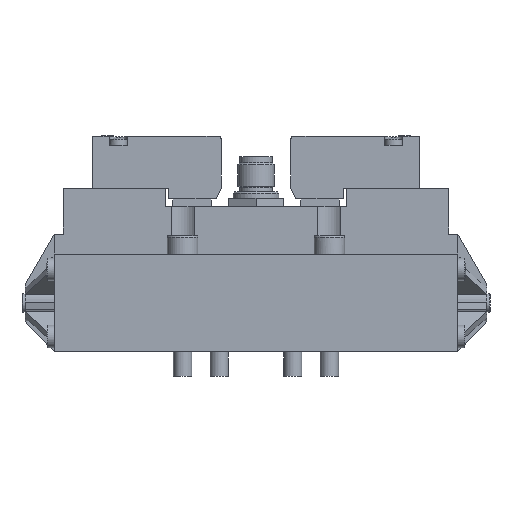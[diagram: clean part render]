
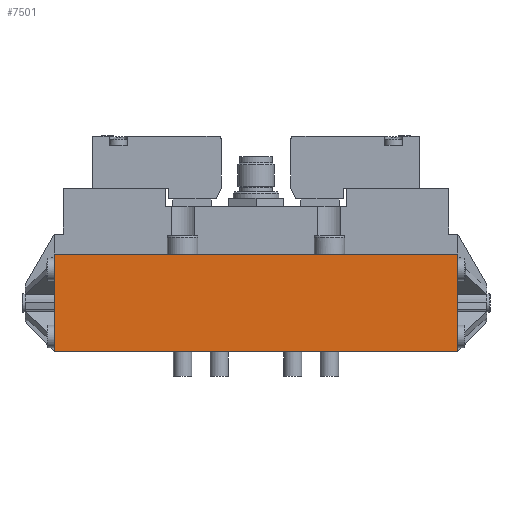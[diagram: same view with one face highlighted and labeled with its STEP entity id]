
A CAD part, front view. The second image highlights one B-rep face of the part: STEP entity #7501.
In plain terms, the highlighted planar face has unit normal (0, -1, 0).
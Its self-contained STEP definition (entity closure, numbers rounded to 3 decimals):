
#3319=CARTESIAN_POINT('',(66.,-26.,-16.0));
#3320=VERTEX_POINT('',#3319);
#3327=CARTESIAN_POINT('',(-66.0,-26.0,-16.0));
#3328=VERTEX_POINT('',#3327);
#3329=CARTESIAN_POINT('',(-66.,-26.0,-16.0));
#3330=DIRECTION('',(1.0,0.0,0.0));
#3331=VECTOR('',#3330,132.0);
#3332=LINE('',#3329,#3331);
#3333=EDGE_CURVE('',#3328,#3320,#3332,.T.);
#3416=CARTESIAN_POINT('',(-66.0,-26.0,16.0));
#3417=VERTEX_POINT('',#3416);
#3424=CARTESIAN_POINT('',(66.,-26.,16.0));
#3425=VERTEX_POINT('',#3424);
#3426=CARTESIAN_POINT('',(66.,-26.,16.0));
#3427=DIRECTION('',(-1.0,0.0,0.0));
#3428=VECTOR('',#3427,132.0);
#3429=LINE('',#3426,#3428);
#3430=EDGE_CURVE('',#3425,#3417,#3429,.T.);
#3807=CARTESIAN_POINT('',(-66.0,-26.0,16.0));
#3808=DIRECTION('',(0.0,0.0,-1.0));
#3809=VECTOR('',#3808,32.0);
#3810=LINE('',#3807,#3809);
#3811=EDGE_CURVE('',#3417,#3328,#3810,.T.);
#4268=CARTESIAN_POINT('',(66.,-26.,16.0));
#4269=DIRECTION('',(0.0,0.0,-1.0));
#4270=VECTOR('',#4269,32.0);
#4271=LINE('',#4268,#4270);
#4272=EDGE_CURVE('',#3425,#3320,#4271,.T.);
#7490=CARTESIAN_POINT('',(66.,-26.,0.0));
#7491=DIRECTION('',(0.0,-1.0,0.0));
#7492=DIRECTION('',(0.0,0.0,-1.0));
#7493=AXIS2_PLACEMENT_3D('',#7490,#7491,#7492);
#7494=PLANE('',#7493);
#7495=ORIENTED_EDGE('',*,*,#3811,.T.);
#7496=ORIENTED_EDGE('',*,*,#3333,.T.);
#7497=ORIENTED_EDGE('',*,*,#4272,.F.);
#7498=ORIENTED_EDGE('',*,*,#3430,.T.);
#7499=EDGE_LOOP('',(#7495,#7496,#7497,#7498));
#7500=FACE_OUTER_BOUND('',#7499,.T.);
#7501=ADVANCED_FACE('',(#7500),#7494,.T.);
